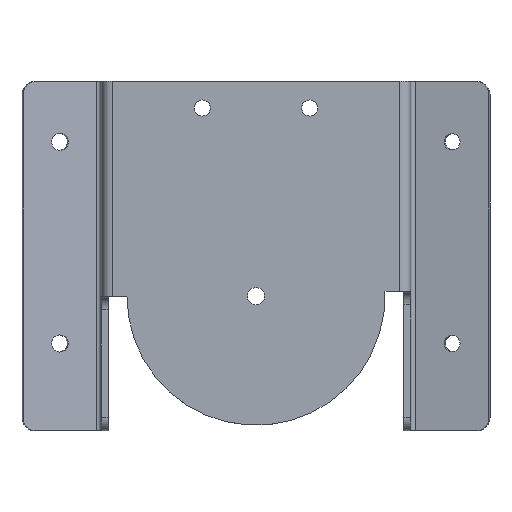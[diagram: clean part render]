
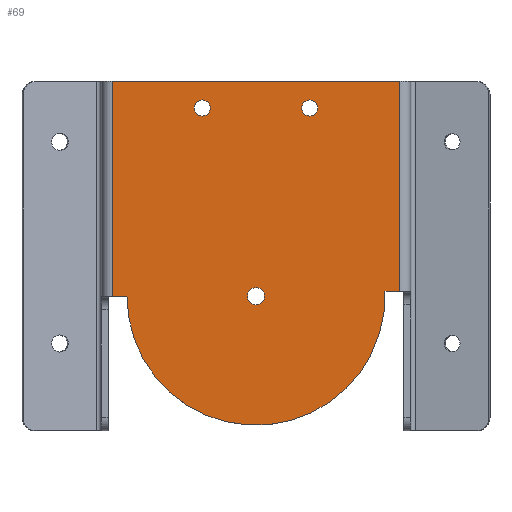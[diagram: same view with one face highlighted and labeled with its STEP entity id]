
A CAD part, top view. The second image highlights one B-rep face of the part: STEP entity #69.
In plain terms, the highlighted planar face has unit normal (0, 0, 1).
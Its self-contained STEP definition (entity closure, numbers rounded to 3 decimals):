
#69 = ADVANCED_FACE( '', ( #173, #174, #175, #176 ), #177, .T. );
#173 = FACE_OUTER_BOUND( '', #330, .T. );
#174 = FACE_BOUND( '', #331, .T. );
#175 = FACE_BOUND( '', #332, .T. );
#176 = FACE_BOUND( '', #333, .T. );
#177 = PLANE( '', #334 );
#330 = EDGE_LOOP( '', ( #486, #487, #488, #489, #490, #491 ) );
#331 = EDGE_LOOP( '', ( #492 ) );
#332 = EDGE_LOOP( '', ( #493 ) );
#333 = EDGE_LOOP( '', ( #494 ) );
#334 = AXIS2_PLACEMENT_3D( '', #495, #496, #497 );
#486 = ORIENTED_EDGE( '', *, *, #887, .F. );
#487 = ORIENTED_EDGE( '', *, *, #888, .F. );
#488 = ORIENTED_EDGE( '', *, *, #889, .F. );
#489 = ORIENTED_EDGE( '', *, *, #890, .T. );
#490 = ORIENTED_EDGE( '', *, *, #891, .T. );
#491 = ORIENTED_EDGE( '', *, *, #892, .T. );
#492 = ORIENTED_EDGE( '', *, *, #893, .F. );
#493 = ORIENTED_EDGE( '', *, *, #894, .F. );
#494 = ORIENTED_EDGE( '', *, *, #895, .F. );
#495 = CARTESIAN_POINT( '', ( 0., 0., 2.5 ) );
#496 = DIRECTION( '', ( 0., 0., 1. ) );
#497 = DIRECTION( '', ( 1., 0., 0. ) );
#887 = EDGE_CURVE( '', #1050, #1051, #1052, .T. );
#888 = EDGE_CURVE( '', #1053, #1050, #1054, .T. );
#889 = EDGE_CURVE( '', #1055, #1053, #1056, .T. );
#890 = EDGE_CURVE( '', #1055, #1057, #1058, .T. );
#891 = EDGE_CURVE( '', #1057, #1059, #1060, .T. );
#892 = EDGE_CURVE( '', #1059, #1051, #1061, .T. );
#893 = EDGE_CURVE( '', #1062, #1062, #1063, .T. );
#894 = EDGE_CURVE( '', #1064, #1064, #1065, .T. );
#895 = EDGE_CURVE( '', #1066, #1066, #1067, .T. );
#1050 = VERTEX_POINT( '', #1293 );
#1051 = VERTEX_POINT( '', #1294 );
#1052 = LINE( '', #1295, #1296 );
#1053 = VERTEX_POINT( '', #1297 );
#1054 = CIRCLE( '', #1298, 48. );
#1055 = VERTEX_POINT( '', #1299 );
#1056 = LINE( '', #1300, #1301 );
#1057 = VERTEX_POINT( '', #1302 );
#1058 = LINE( '', #1303, #1304 );
#1059 = VERTEX_POINT( '', #1305 );
#1060 = LINE( '', #1306, #1307 );
#1061 = LINE( '', #1308, #1309 );
#1062 = VERTEX_POINT( '', #1310 );
#1063 = CIRCLE( '', #1311, 3. );
#1064 = VERTEX_POINT( '', #1312 );
#1065 = CIRCLE( '', #1313, 3. );
#1066 = VERTEX_POINT( '', #1314 );
#1067 = CIRCLE( '', #1315, 3.175 );
#1293 = CARTESIAN_POINT( '', ( 7., 50., 2.5 ) );
#1294 = CARTESIAN_POINT( '', ( 1.5, 50., 2.5 ) );
#1295 = CARTESIAN_POINT( '', ( 7., 50., 2.5 ) );
#1296 = VECTOR( '', #1598, 1000. );
#1297 = CARTESIAN_POINT( '', ( 102.966, 51.816, 2.5 ) );
#1298 = AXIS2_PLACEMENT_3D( '', #1599, #1600, #1601 );
#1299 = CARTESIAN_POINT( '', ( 108.5, 51.816, 2.5 ) );
#1300 = CARTESIAN_POINT( '', ( 102.966, 51.816, 2.5 ) );
#1301 = VECTOR( '', #1602, 1000. );
#1302 = CARTESIAN_POINT( '', ( 108.5, 130., 2.5 ) );
#1303 = CARTESIAN_POINT( '', ( 108.5, 0., 2.5 ) );
#1304 = VECTOR( '', #1603, 1000. );
#1305 = CARTESIAN_POINT( '', ( 1.5, 130., 2.5 ) );
#1306 = CARTESIAN_POINT( '', ( 110., 130., 2.5 ) );
#1307 = VECTOR( '', #1604, 1000. );
#1308 = CARTESIAN_POINT( '', ( 1.5, 130., 2.5 ) );
#1309 = VECTOR( '', #1605, 1000. );
#1310 = CARTESIAN_POINT( '', ( 38., 120., 2.5 ) );
#1311 = AXIS2_PLACEMENT_3D( '', #1606, #1607, #1608 );
#1312 = CARTESIAN_POINT( '', ( 78., 120., 2.5 ) );
#1313 = AXIS2_PLACEMENT_3D( '', #1609, #1610, #1611 );
#1314 = CARTESIAN_POINT( '', ( 58.175, 50., 2.5 ) );
#1315 = AXIS2_PLACEMENT_3D( '', #1612, #1613, #1614 );
#1598 = DIRECTION( '', ( -1., 0., 0. ) );
#1599 = CARTESIAN_POINT( '', ( 55., 50., 2.5 ) );
#1600 = DIRECTION( '', ( 0., 0., -1. ) );
#1601 = DIRECTION( '', ( 0., 1., 0. ) );
#1602 = DIRECTION( '', ( -1., 0., 0. ) );
#1603 = DIRECTION( '', ( 0., 1., 0. ) );
#1604 = DIRECTION( '', ( -1., 0., 0. ) );
#1605 = DIRECTION( '', ( 0., -1., 0. ) );
#1606 = CARTESIAN_POINT( '', ( 35., 120., 2.5 ) );
#1607 = DIRECTION( '', ( 0., 0., 1. ) );
#1608 = DIRECTION( '', ( 1., 0., 0. ) );
#1609 = CARTESIAN_POINT( '', ( 75., 120., 2.5 ) );
#1610 = DIRECTION( '', ( 0., 0., 1. ) );
#1611 = DIRECTION( '', ( 1., 0., 0. ) );
#1612 = CARTESIAN_POINT( '', ( 55., 50., 2.5 ) );
#1613 = DIRECTION( '', ( 0., 0., 1. ) );
#1614 = DIRECTION( '', ( 1., 0., 0. ) );
